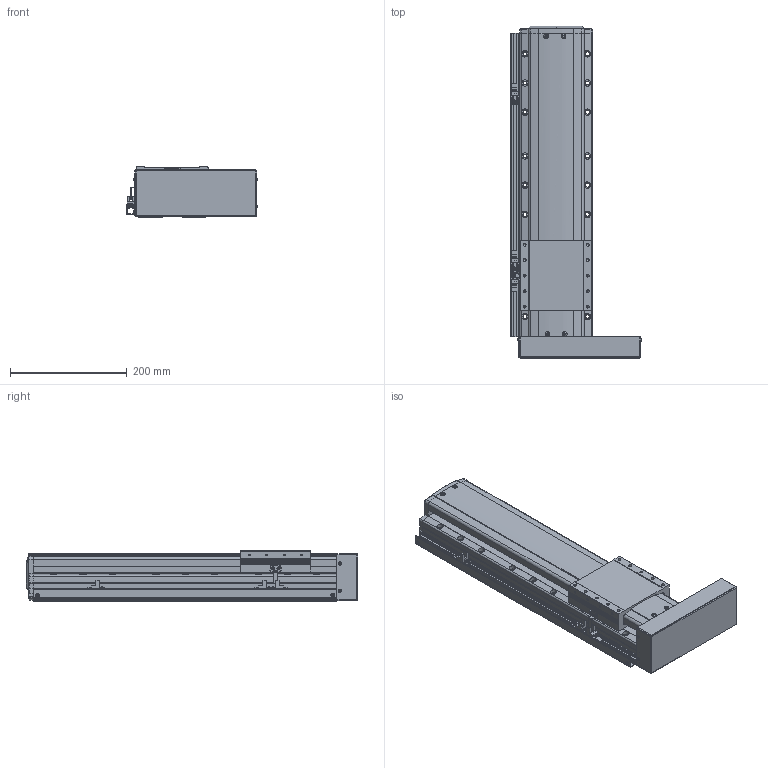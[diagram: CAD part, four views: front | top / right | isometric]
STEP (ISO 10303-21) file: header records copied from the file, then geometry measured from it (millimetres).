
FILE_DESCRIPTION(('STEP AP214'),'1');
FILE_NAME('Z:/Web/3D/PSA125/STP/PSA125-300 (3D)/PSA125ㅁㅁ-300PR+3SL.stp','2014-06-22T23:38:53',(' '),(' '),'Spatial InterOp 3D',' ',' ');
FILE_SCHEMA(('automotive_design'));
Length unit declared in the file: millimetre
Products named in the file (41): 스크루 : Round - M4.0 x 10.0; RRCV-PA120; SLIDE; BASE; FRCV-PA120-1(기준 뿔 제거); RR1500; 스크루 : Round - M4.0 x 6.0; 너트 : Square - M10.0 x 220.7419; BTCV - 60A; 스크루 : Round - M3.0 x 6.0; EE-SX674; SBK-SX674-352; M3.0 x 6.0; SRL-16x17-380L; SGD-PA95; 스크루 : Round - M3.0 x 8.0
Bounding box: 225.06 x 568.6 x 86 mm (x, y, z)
Volume: 5194972.6 mm3; surface area: 535975.4 mm2
Topology: 41 solids, 41 shells, 2439 faces, 6493 edges, 4166 vertices
Faces by surface type: plane 1407, cylinder 676, cone 236, sphere 64, bspline 31, torus 25
Entity records: 97432 total; most frequent: CARTESIAN_POINT 15823, DIRECTION 12973, ORIENTED_EDGE 12726, EDGE_CURVE 6363, AXIS2_PLACEMENT_3D 4329, LINE 4315, VECTOR 4315, VERTEX_POINT 4166
